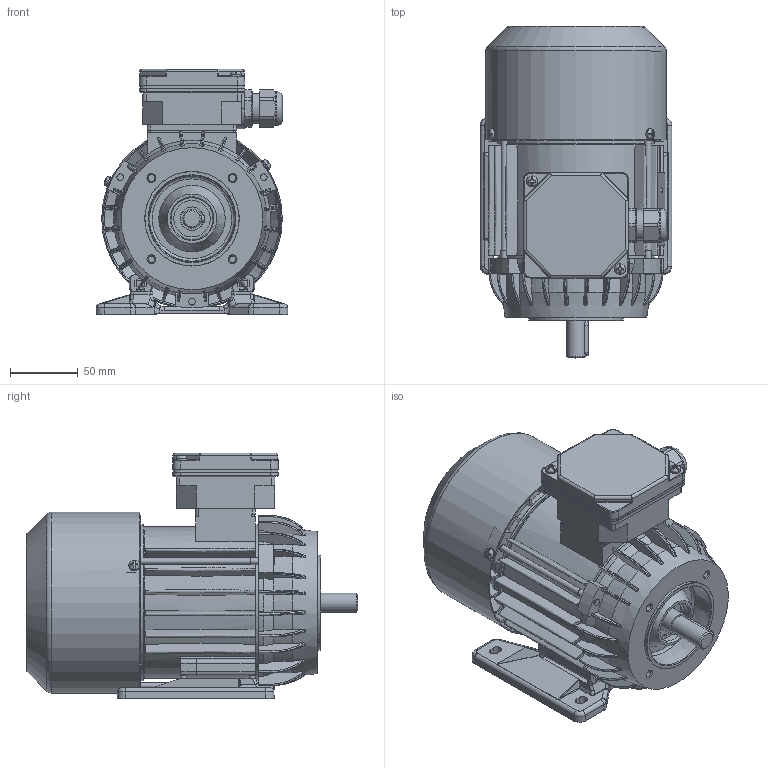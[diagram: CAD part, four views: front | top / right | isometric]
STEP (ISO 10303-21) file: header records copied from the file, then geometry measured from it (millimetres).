
FILE_DESCRIPTION(/* description */ ('Unknown'),/* implementation_level */ '2;1');
FILE_NAME(/* name */ '2SIEL71-8B2',/* time_stamp */ '2021-04-13T15:28:16+02:00',/* author */ ('Unknown'),/* organization */ ('Unknown'),/* preprocessor_version */ 'ST-DEVELOPER v16.7',/* originating_system */ 'Solid Edge',/* authorisation */ 'Unknown');
FILE_SCHEMA (('AUTOMOTIVE_DESIGN {1 0 10303 214 3 1 1}'));
Products named in the file (1): 2SIEL71-8B2
Bounding box: 141.92 x 245.47 x 181.48 mm (x, y, z)
Volume: 689603.7 mm3; surface area: 424510.4 mm2
Topology: 1 solids, 1 shells, 2691 faces, 7583 edges, 4871 vertices
Faces by surface type: plane 1077, cylinder 767, bspline 418, torus 222, cone 181, sphere 26
Full cylindrical faces by diameter (mm): 2 x2, 2.4 x2, 3.7 x4, 3.8 x4, 4 x2, 4.6 x3, 4.8 x2, 4.917 x4, 5 x8, 5.499 x3, 5.799 x4, 6.999 x1, 7.999 x9, 13.999 x1, 15.898 x1, 16.098 x1, 16.498 x1, 16.998 x2, 17.398 x2, 21.998 x2, 22.298 x1, 22.498 x1, 22.998 x1, 23.098 x1, 24.496 x4, 24.997 x1, 26.997 x1, 27.997 x1, 29.997 x1, 30.997 x1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
Entity records: 116427 total; most frequent: CARTESIAN_POINT 32795, ORIENTED_EDGE 14438, DIRECTION 12289, EDGE_CURVE 7219, VERTEX_POINT 4743, AXIS2_PLACEMENT_3D 4635, FACE_BOUND 3118, EDGE_LOOP 3114
